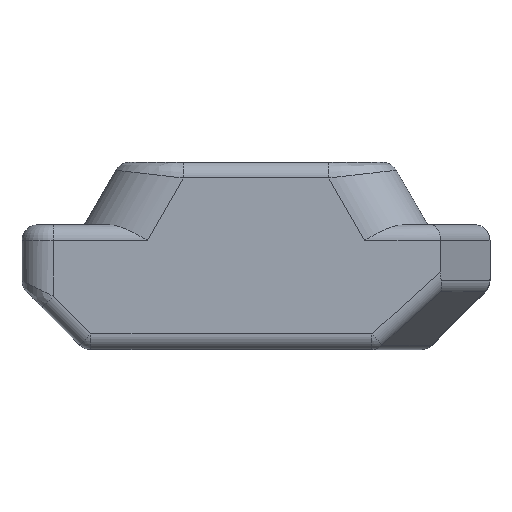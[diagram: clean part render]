
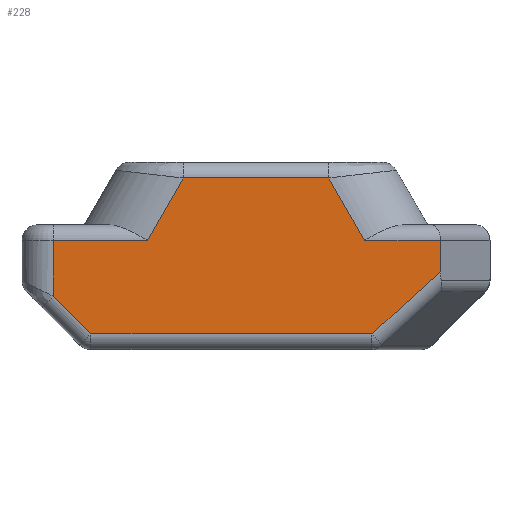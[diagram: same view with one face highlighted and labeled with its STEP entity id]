
A CAD part, front view. The second image highlights one B-rep face of the part: STEP entity #228.
In plain terms, the highlighted planar face has unit normal (0, -1, 0).
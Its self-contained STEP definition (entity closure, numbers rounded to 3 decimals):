
#228=ADVANCED_FACE('',(#458),#459,.F.);
#458=FACE_OUTER_BOUND('',#1044,.T.);
#459=PLANE('',#1045);
#1044=EDGE_LOOP('',(#1601,#1602,#1603,#1604,#1605,#1606,#1607,#1608,#1609,#1610));
#1045=AXIS2_PLACEMENT_3D('',#1611,#1612,#1613);
#1601=ORIENTED_EDGE('',*,*,#1661,.T.);
#1602=ORIENTED_EDGE('',*,*,#1872,.T.);
#1603=ORIENTED_EDGE('',*,*,#1688,.T.);
#1604=ORIENTED_EDGE('',*,*,#1731,.T.);
#1605=ORIENTED_EDGE('',*,*,#1756,.F.);
#1606=ORIENTED_EDGE('',*,*,#1674,.T.);
#1607=ORIENTED_EDGE('',*,*,#1835,.T.);
#1608=ORIENTED_EDGE('',*,*,#1821,.T.);
#1609=ORIENTED_EDGE('',*,*,#1832,.T.);
#1610=ORIENTED_EDGE('',*,*,#1845,.T.);
#1611=CARTESIAN_POINT('',(-7.5,-4.9,0.));
#1612=DIRECTION('',(0.0,1.0,0.0));
#1613=DIRECTION('',(0.0,0.0,1.0));
#1661=EDGE_CURVE('',#1899,#1893,#1900,.T.);
#1674=EDGE_CURVE('',#1921,#1918,#1922,.T.);
#1688=EDGE_CURVE('',#1944,#1945,#1946,.T.);
#1731=EDGE_CURVE('',#1945,#2004,#2006,.F.);
#1756=EDGE_CURVE('',#1921,#2004,#2045,.T.);
#1821=EDGE_CURVE('',#2065,#2140,#2142,.F.);
#1832=EDGE_CURVE('',#2140,#2153,#2154,.T.);
#1835=EDGE_CURVE('',#1918,#2065,#2157,.T.);
#1845=EDGE_CURVE('',#2153,#1899,#2167,.T.);
#1872=EDGE_CURVE('',#1893,#1944,#2197,.F.);
#1893=VERTEX_POINT('',#2218);
#1899=VERTEX_POINT('',#2225);
#1900=LINE('',#2226,#2227);
#1918=VERTEX_POINT('',#2247);
#1921=VERTEX_POINT('',#2257);
#1922=LINE('',#2258,#2259);
#1944=VERTEX_POINT('',#2286);
#1945=VERTEX_POINT('',#2287);
#1946=LINE('',#2288,#2289);
#2004=VERTEX_POINT('',#2362);
#2006=LINE('',#2364,#2365);
#2045=LINE('',#2422,#2423);
#2065=VERTEX_POINT('',#2450);
#2140=VERTEX_POINT('',#2584);
#2142=LINE('',#2586,#2587);
#2153=VERTEX_POINT('',#2598);
#2154=LINE('',#2599,#2600);
#2157=LINE('',#2610,#2611);
#2167=LINE('',#2621,#2622);
#2197=LINE('',#2654,#2655);
#2218=CARTESIAN_POINT('',(-6.5,-4.9,-4.293));
#2225=CARTESIAN_POINT('',(-6.5,-4.9,-2.5));
#2226=CARTESIAN_POINT('',(-6.5,-4.9,0.));
#2227=VECTOR('',#2684,1.0);
#2247=CARTESIAN_POINT('',(3.48,-4.9,-2.5));
#2257=CARTESIAN_POINT('',(5.915,-4.9,-2.5));
#2258=CARTESIAN_POINT('',(-7.5,-4.9,-2.5));
#2259=VECTOR('',#2705,1.0);
#2286=CARTESIAN_POINT('',(-5.293,-4.9,-5.5));
#2287=CARTESIAN_POINT('',(3.712,-4.9,-5.5));
#2288=CARTESIAN_POINT('',(-7.5,-4.9,-5.5));
#2289=VECTOR('',#2726,1.0);
#2362=CARTESIAN_POINT('',(5.915,-4.9,-3.504));
#2364=CARTESIAN_POINT('',(5.668,-4.9,-3.728));
#2365=VECTOR('',#2793,1.0);
#2422=CARTESIAN_POINT('',(5.915,-4.9,0.));
#2423=VECTOR('',#2815,1.0);
#2450=CARTESIAN_POINT('',(2.33,-4.9,-0.5));
#2584=CARTESIAN_POINT('',(-2.33,-4.9,-0.5));
#2586=CARTESIAN_POINT('',(-2.043,-4.9,-0.5));
#2587=VECTOR('',#2899,1.0);
#2598=CARTESIAN_POINT('',(-3.48,-4.9,-2.5));
#2599=CARTESIAN_POINT('',(-3.399,-4.9,-2.358));
#2600=VECTOR('',#2912,1.0);
#2610=CARTESIAN_POINT('',(-0.328,-4.9,4.124));
#2611=VECTOR('',#2913,1.0);
#2621=CARTESIAN_POINT('',(-7.5,-4.9,-2.5));
#2622=VECTOR('',#2926,1.0);
#2654=CARTESIAN_POINT('',(-5.646,-4.9,-5.146));
#2655=VECTOR('',#2965,1.0);
#2684=DIRECTION('',(0.0,0.0,-1.0));
#2705=DIRECTION('',(-1.0,0.0,0.0));
#2726=DIRECTION('',(1.0,0.0,0.0));
#2793=DIRECTION('',(-0.741,0.0,-0.672));
#2815=DIRECTION('',(0.0,0.0,-1.0));
#2899=DIRECTION('',(1.0,0.0,0.0));
#2912=DIRECTION('',(-0.498,0.0,-0.867));
#2913=DIRECTION('',(-0.498,0.0,0.867));
#2926=DIRECTION('',(-1.0,0.0,0.0));
#2965=DIRECTION('',(-0.707,0.0,0.707));
